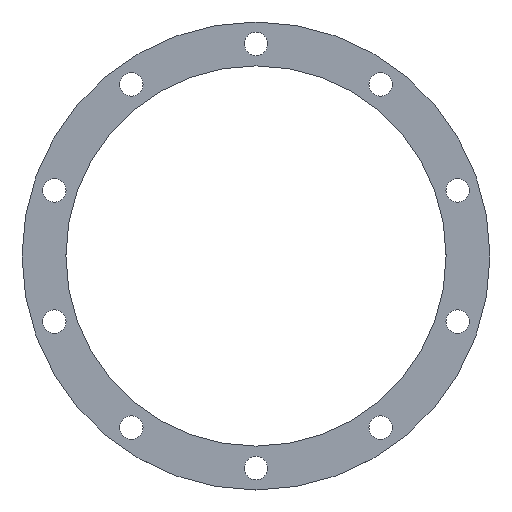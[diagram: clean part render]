
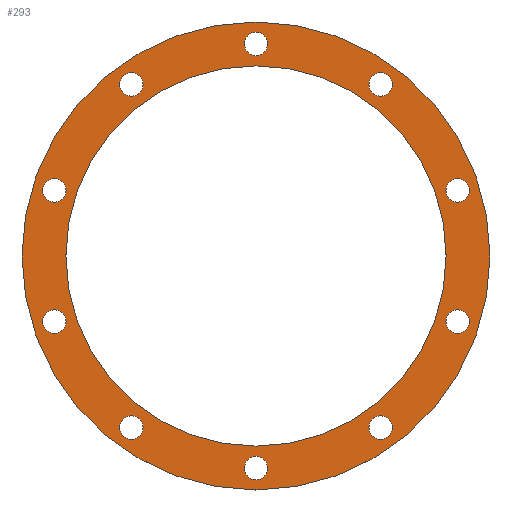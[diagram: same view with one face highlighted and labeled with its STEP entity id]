
A CAD part, top view. The second image highlights one B-rep face of the part: STEP entity #293.
In plain terms, the highlighted planar face has unit normal (0, 0, 1).
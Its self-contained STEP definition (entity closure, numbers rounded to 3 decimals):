
#15=FACE_BOUND('',#66,.T.);
#16=FACE_BOUND('',#67,.T.);
#17=FACE_BOUND('',#68,.T.);
#18=FACE_BOUND('',#69,.T.);
#19=FACE_BOUND('',#70,.T.);
#20=FACE_BOUND('',#71,.T.);
#21=FACE_BOUND('',#72,.T.);
#22=FACE_BOUND('',#73,.T.);
#23=FACE_BOUND('',#74,.T.);
#24=FACE_BOUND('',#75,.T.);
#25=FACE_BOUND('',#76,.T.);
#37=PLANE('',#351);
#51=FACE_OUTER_BOUND('',#65,.T.);
#65=EDGE_LOOP('',(#245));
#66=EDGE_LOOP('',(#246));
#67=EDGE_LOOP('',(#247));
#68=EDGE_LOOP('',(#248));
#69=EDGE_LOOP('',(#249));
#70=EDGE_LOOP('',(#250));
#71=EDGE_LOOP('',(#251));
#72=EDGE_LOOP('',(#252));
#73=EDGE_LOOP('',(#253));
#74=EDGE_LOOP('',(#254));
#75=EDGE_LOOP('',(#255));
#76=EDGE_LOOP('',(#256));
#113=CIRCLE('',#316,4.);
#115=CIRCLE('',#319,4.);
#117=CIRCLE('',#322,4.);
#119=CIRCLE('',#325,4.);
#121=CIRCLE('',#328,4.);
#123=CIRCLE('',#331,65.);
#125=CIRCLE('',#334,4.);
#127=CIRCLE('',#337,4.);
#129=CIRCLE('',#340,4.);
#131=CIRCLE('',#343,4.);
#133=CIRCLE('',#346,4.);
#135=CIRCLE('',#349,80.);
#137=VERTEX_POINT('',#445);
#139=VERTEX_POINT('',#451);
#141=VERTEX_POINT('',#457);
#143=VERTEX_POINT('',#463);
#145=VERTEX_POINT('',#469);
#147=VERTEX_POINT('',#475);
#149=VERTEX_POINT('',#481);
#151=VERTEX_POINT('',#487);
#153=VERTEX_POINT('',#493);
#155=VERTEX_POINT('',#499);
#157=VERTEX_POINT('',#505);
#159=VERTEX_POINT('',#511);
#161=EDGE_CURVE('',#137,#137,#113,.T.);
#164=EDGE_CURVE('',#139,#139,#115,.T.);
#167=EDGE_CURVE('',#141,#141,#117,.T.);
#170=EDGE_CURVE('',#143,#143,#119,.T.);
#173=EDGE_CURVE('',#145,#145,#121,.T.);
#176=EDGE_CURVE('',#147,#147,#123,.T.);
#179=EDGE_CURVE('',#149,#149,#125,.T.);
#182=EDGE_CURVE('',#151,#151,#127,.T.);
#185=EDGE_CURVE('',#153,#153,#129,.T.);
#188=EDGE_CURVE('',#155,#155,#131,.T.);
#191=EDGE_CURVE('',#157,#157,#133,.T.);
#194=EDGE_CURVE('',#159,#159,#135,.T.);
#245=ORIENTED_EDGE('',*,*,#194,.T.);
#246=ORIENTED_EDGE('',*,*,#191,.T.);
#247=ORIENTED_EDGE('',*,*,#188,.T.);
#248=ORIENTED_EDGE('',*,*,#185,.T.);
#249=ORIENTED_EDGE('',*,*,#182,.T.);
#250=ORIENTED_EDGE('',*,*,#179,.T.);
#251=ORIENTED_EDGE('',*,*,#176,.T.);
#252=ORIENTED_EDGE('',*,*,#173,.T.);
#253=ORIENTED_EDGE('',*,*,#170,.T.);
#254=ORIENTED_EDGE('',*,*,#167,.T.);
#255=ORIENTED_EDGE('',*,*,#164,.T.);
#256=ORIENTED_EDGE('',*,*,#161,.T.);
#293=ADVANCED_FACE('',(#51,#15,#16,#17,#18,#19,#20,#21,#22,#23,#24,#25),
#37,.T.);
#316=AXIS2_PLACEMENT_3D('',#446,#357,#358);
#319=AXIS2_PLACEMENT_3D('',#452,#364,#365);
#322=AXIS2_PLACEMENT_3D('',#458,#371,#372);
#325=AXIS2_PLACEMENT_3D('',#464,#378,#379);
#328=AXIS2_PLACEMENT_3D('',#470,#385,#386);
#331=AXIS2_PLACEMENT_3D('',#476,#392,#393);
#334=AXIS2_PLACEMENT_3D('',#482,#399,#400);
#337=AXIS2_PLACEMENT_3D('',#488,#406,#407);
#340=AXIS2_PLACEMENT_3D('',#494,#413,#414);
#343=AXIS2_PLACEMENT_3D('',#500,#420,#421);
#346=AXIS2_PLACEMENT_3D('',#506,#427,#428);
#349=AXIS2_PLACEMENT_3D('',#512,#434,#435);
#351=AXIS2_PLACEMENT_3D('',#516,#439,#440);
#357=DIRECTION('center_axis',(0.,0.,-1.));
#358=DIRECTION('ref_axis',(-1.,0.,0.));
#364=DIRECTION('center_axis',(0.,0.,-1.));
#365=DIRECTION('ref_axis',(-1.,0.,0.));
#371=DIRECTION('center_axis',(0.,0.,-1.));
#372=DIRECTION('ref_axis',(-1.,0.,0.));
#378=DIRECTION('center_axis',(0.,0.,-1.));
#379=DIRECTION('ref_axis',(-1.,0.,0.));
#385=DIRECTION('center_axis',(0.,0.,-1.));
#386=DIRECTION('ref_axis',(-1.,0.,0.));
#392=DIRECTION('center_axis',(0.,0.,-1.));
#393=DIRECTION('ref_axis',(-1.,0.,0.));
#399=DIRECTION('center_axis',(0.,0.,-1.));
#400=DIRECTION('ref_axis',(-1.,0.,0.));
#406=DIRECTION('center_axis',(0.,0.,-1.));
#407=DIRECTION('ref_axis',(-1.,0.,0.));
#413=DIRECTION('center_axis',(0.,0.,-1.));
#414=DIRECTION('ref_axis',(-1.,0.,0.));
#420=DIRECTION('center_axis',(0.,0.,-1.));
#421=DIRECTION('ref_axis',(-1.,0.,0.));
#427=DIRECTION('center_axis',(0.,0.,-1.));
#428=DIRECTION('ref_axis',(-1.,0.,0.));
#434=DIRECTION('center_axis',(0.,0.,1.));
#435=DIRECTION('ref_axis',(1.,0.,0.));
#439=DIRECTION('center_axis',(0.,0.,1.));
#440=DIRECTION('ref_axis',(1.,0.,0.));
#445=CARTESIAN_POINT('',(1.386,51.154,1.));
#446=CARTESIAN_POINT('Origin',(-2.614,51.154,1.));
#451=CARTESIAN_POINT('',(44.,65.,1.));
#452=CARTESIAN_POINT('Origin',(40.,65.,1.));
#457=CARTESIAN_POINT('',(-24.952,14.904,1.));
#458=CARTESIAN_POINT('Origin',(-28.952,14.904,1.));
#463=CARTESIAN_POINT('',(112.952,14.904,1.));
#464=CARTESIAN_POINT('Origin',(108.952,14.904,1.));
#469=CARTESIAN_POINT('',(86.614,51.154,1.));
#470=CARTESIAN_POINT('Origin',(82.614,51.154,1.));
#475=CARTESIAN_POINT('',(105.,-7.5,1.));
#476=CARTESIAN_POINT('Origin',(40.,-7.5,1.));
#481=CARTESIAN_POINT('',(44.,-80.,1.));
#482=CARTESIAN_POINT('Origin',(40.,-80.,1.));
#487=CARTESIAN_POINT('',(1.386,-66.154,1.));
#488=CARTESIAN_POINT('Origin',(-2.614,-66.154,1.));
#493=CARTESIAN_POINT('',(-24.952,-29.904,1.));
#494=CARTESIAN_POINT('Origin',(-28.952,-29.904,1.));
#499=CARTESIAN_POINT('',(112.952,-29.904,1.));
#500=CARTESIAN_POINT('Origin',(108.952,-29.904,1.));
#505=CARTESIAN_POINT('',(86.614,-66.154,1.));
#506=CARTESIAN_POINT('Origin',(82.614,-66.154,1.));
#511=CARTESIAN_POINT('',(-40.,-7.5,1.));
#512=CARTESIAN_POINT('Origin',(40.,-7.5,1.));
#516=CARTESIAN_POINT('Origin',(40.,-7.5,1.));
